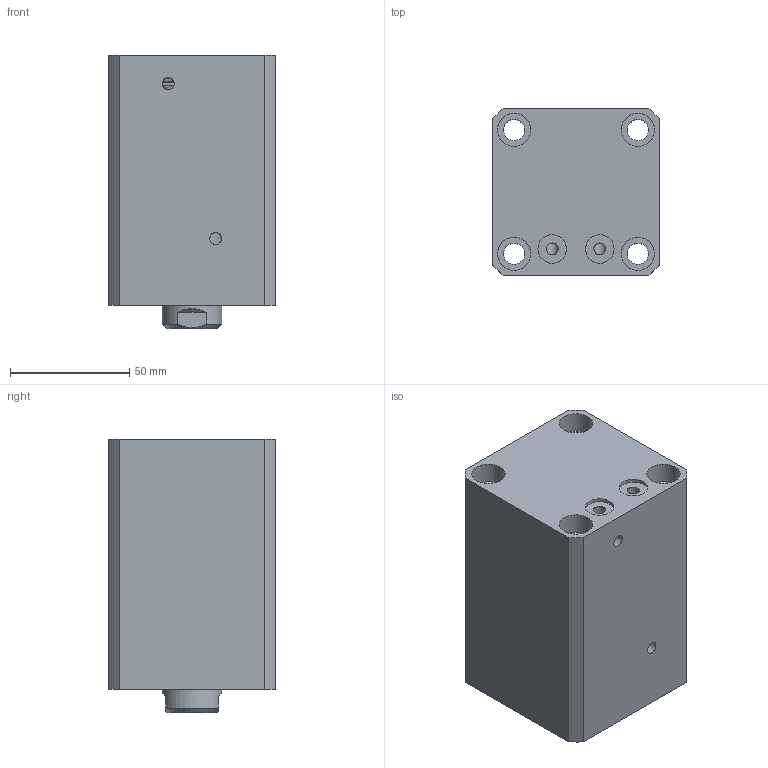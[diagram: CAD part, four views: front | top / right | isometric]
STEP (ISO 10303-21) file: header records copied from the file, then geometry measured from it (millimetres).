
FILE_DESCRIPTION(/* description */ (''),/* implementation_level */ '2;1');
FILE_NAME(/* name */ 'CHTB-sdmb40x50n.stp',/* time_stamp */ '2022-04-29T17:47:21+08:00',/* author */ (''),/* organization */ (''),/* preprocessor_version */ 'ST-DEVELOPER v16.7',/* originating_system */ 'SIEMENS PLM Software NX 12.0',/* authorisation */ '');
FILE_SCHEMA (('AUTOMOTIVE_DESIGN { 1 0 10303 214 3 1 1 1 }'));
Length unit declared in the file: millimetre
Products named in the file (1): CHTB-sdmb40x50n
Bounding box: 70 x 70 x 115 mm (x, y, z)
Volume: 431623.9 mm3; surface area: 89607.4 mm2
Topology: 3 solids, 3 shells, 485 faces, 1313 edges, 880 vertices
Faces by surface type: plane 313, extrusion 109, cylinder 41, torus 11, bspline 6, cone 5
Full cylindrical faces by diameter (mm): 4.2 x2, 5 x5, 9 x4, 12 x2, 14 x9, 25 x2, 29 x1, 34 x2, 40 x4, 45 x1
Entity records: 21892 total; most frequent: CARTESIAN_POINT 7640, ORIENTED_EDGE 2482, DIRECTION 1915, EDGE_CURVE 1241, VECTOR 993, LINE 884, VERTEX_POINT 861, EDGE_LOOP 600
